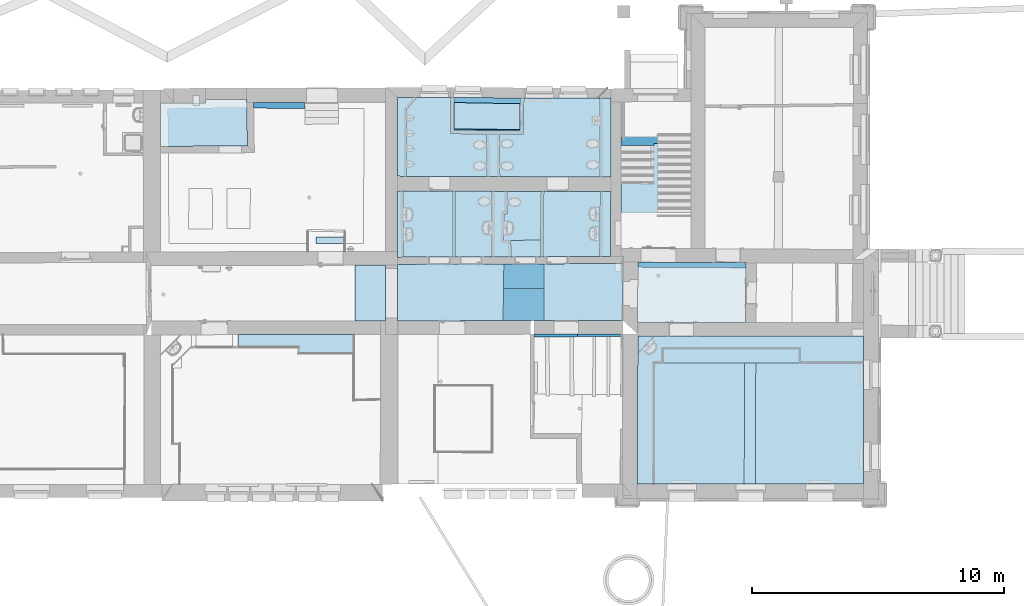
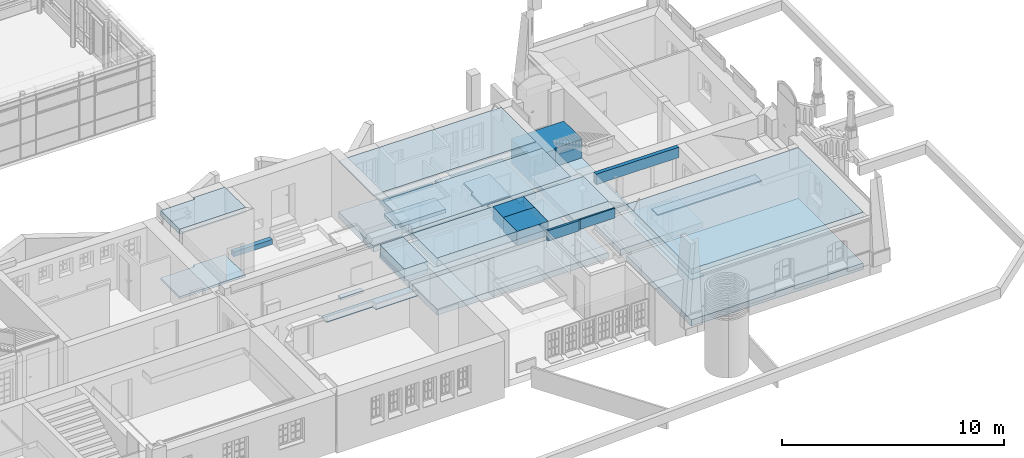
# One storey, part 13 of 196: 37 slabs.
"""IFC2X3 building model written with IfcOpenShell, lengths in metres."""

from ifc_helpers import new_model, entity, si_unit, converted_unit, derived_unit, money_unit, direction, frame, origin_with_axes, place, context, subcontext, project, spatial, polyline, outline, extrude, material, layer, layer_set, layer_usage, type_object, element, save


model = new_model("IFC2X3")

# Units and contexts
model_context = context("Model", 3, precision=1e-05, world=origin_with_axes(), true_north=direction((0.0, 1.0)))
body_context = subcontext(model_context, "Body", "Model", "MODEL_VIEW")
ifc_project = project(units=[si_unit("LENGTHUNIT", "METRE"), si_unit("AREAUNIT", "SQUARE_METRE"), si_unit("VOLUMEUNIT", "CUBIC_METRE"), converted_unit("PLANEANGLEUNIT", "DEGREE", entity("IfcPlaneAngleMeasure", 0.0174532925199), si_unit("PLANEANGLEUNIT", "RADIAN"), dimensions=[0, 0, 0, 0, 0, 0, 0]), money_unit("EUR"), converted_unit("TIMEUNIT", "Year", entity("IfcTimeMeasure", 31556926.0), si_unit("TIMEUNIT", "SECOND"), dimensions=[0, 0, 1, 0, 0, 0, 0]), si_unit("MASSUNIT", "GRAM", prefix="KILO"), si_unit("THERMODYNAMICTEMPERATUREUNIT", "DEGREE_CELSIUS"), si_unit("LUMINOUSINTENSITYUNIT", "LUMEN"), si_unit("ENERGYUNIT", "JOULE", prefix="MEGA"), derived_unit("THERMALCONDUCTANCEUNIT", [(si_unit("POWERUNIT", "WATT"), 1), (si_unit("LENGTHUNIT", "METRE"), -1), (si_unit("THERMODYNAMICTEMPERATUREUNIT", "KELVIN"), -1)]), derived_unit("SPECIFICHEATCAPACITYUNIT", [(si_unit("ENERGYUNIT", "JOULE"), 1), (si_unit("MASSUNIT", "GRAM", prefix="KILO"), -1), (si_unit("THERMODYNAMICTEMPERATUREUNIT", "KELVIN"), -1)]), derived_unit("MASSDENSITYUNIT", [(si_unit("MASSUNIT", "GRAM", prefix="KILO"), 1), (si_unit("VOLUMEUNIT", "CUBIC_METRE"), -1)])], contexts=[model_context])

# Site, building, storey
site_placement = place(None, origin_with_axes())
site = spatial("IfcSite", under=ifc_project, at=site_placement, Name="Gelände", CompositionType="ELEMENT")
building_placement = place(site_placement, origin_with_axes())
building = spatial("IfcBuilding", under=site, at=building_placement, Name="Gebäude", CompositionType="ELEMENT")
storey_placement = place(building_placement, frame((0.0, 0.0, -3.0), z_axis=(0.0, 0.0, 1.0), x_axis=(1.0, 0.0, 0.0)))
storey = spatial("IfcBuildingStorey", under=building, at=storey_placement, Name="KELLERGESCHOSS", CompositionType="ELEMENT", Elevation=-3.0)

# Slabs
ifc_material_1 = material(Name="01_ALLGEMEIN - BAUTEIL")
ifc_layer_1 = layer(ifc_material_1, 0.05, ventilated="UNKNOWN")
ifc_layer_set_1 = layer_set([ifc_layer_1], Name="01_ALLGEMEIN - BAUTEIL 0.05")
ifc_layer_usage_1 = layer_usage(ifc_layer_set_1, "AXIS3", "NEGATIVE", 0.05)
slab_type_1 = type_object("IfcSlabType", Name="01_ALLGEMEIN - BAUTEIL 50", PredefinedType="NOTDEFINED")
slab_1_placement = place(storey_placement, frame((15.2708428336, 25.6222415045, -0.14), z_axis=(0.0, 0.0, 1.0), x_axis=(1.0, 0.0, 0.0)))
element("IfcSlab", 1, at=slab_1_placement, inside=storey, type_object=slab_type_1, material=ifc_layer_usage_1, Name="Belag-005", PredefinedType="NOTDEFINED", context=body_context, shape_type="SweptSolid", body=[
    extrude(outline(polyline([(0.0, 0.0), (-0.00159687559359, -1.05285801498), (2.60614638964, -1.07878111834), (2.62291177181, -0.047416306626), (0.0, 0.0)])), frame((0.0, 0.0, -0.05), z_axis=(0.0, 0.0, 1.0), x_axis=(1.0, 0.0, 0.0)), (0.0, 0.0, 1.0), 0.05),
])
ifc_layer_usage_2 = layer_usage(ifc_layer_set_1, "AXIS3", "NEGATIVE", 0.05)
slab_2_placement = place(storey_placement, frame((6.68129350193, 16.4052183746, 2.10545783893), z_axis=(0.0, 0.0, 1.0), x_axis=(1.0, 0.0, 0.0)))
element("IfcSlab", 2, at=slab_2_placement, inside=storey, type_object=slab_type_1, material=ifc_layer_usage_2, Name="Belag-013", PredefinedType="NOTDEFINED", context=body_context, shape_type="SweptSolid", body=[
    extrude(outline(polyline([(0.0, 0.0), (-0.00127593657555, -0.511836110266), (2.39945247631, -0.508101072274), (2.39868127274, -0.762400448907), (4.59247818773, -0.756304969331), (4.59341028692, 0.00742721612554), (0.0, 0.0)])), origin_with_axes(), (0.0, 0.0, 1.0), 0.05),
])
ifc_layer_usage_3 = layer_usage(ifc_layer_set_1, "AXIS3", "NEGATIVE", 0.05)
slab_3_placement = place(storey_placement, frame((22.5605508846, 15.6626276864, 2.17), z_axis=(0.0, 0.0, 1.0), x_axis=(1.0, 0.0, 0.0)))
element("IfcSlab", 3, at=slab_3_placement, inside=storey, type_object=slab_type_1, material=ifc_layer_usage_3, Name="Belag-014", PredefinedType="NOTDEFINED", context=body_context, shape_type="SweptSolid", body=[
    extrude(outline(polyline([(0.0, 0.0), (-0.0219322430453, -5.19354771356), (0.651469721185, -5.19336654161), (0.663187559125, -0.387306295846), (1.0051730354, -0.387272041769), (1.00169651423, 0.183869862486), (6.42089456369, 0.182806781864), (6.41979334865, -0.386728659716), (8.95674513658, -0.386474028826), (8.95755987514, 0.68185910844), (0.674658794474, 0.691371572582), (0.0, 0.0)])), origin_with_axes(), (0.0, 0.0, 1.0), 0.05),
])
ifc_material_2 = material(Name="05_ALLGEMEIN - TRAGENDE BAUTEILE")
ifc_layer_2 = layer(ifc_material_2, 0.33, ventilated="UNKNOWN")
ifc_layer_set_2 = layer_set([ifc_layer_2], Name="05_ALLGEMEIN - TRAGENDE BAUTEILE 0.33")
ifc_layer_usage_4 = layer_usage(ifc_layer_set_2, "AXIS3", "NEGATIVE", 0.33)
slab_type_2 = type_object("IfcSlabType", Name="05_ALLGEMEIN - TRAGENDE BAUTEILE 330", PredefinedType="NOTDEFINED")
slab_4_placement = place(storey_placement, frame((21.8996310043, 23.9081781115, -0.03), z_axis=(0.0, 0.0, 1.0), x_axis=(1.0, 0.0, 0.0)))
element("IfcSlab", 4, at=slab_4_placement, inside=storey, type_object=slab_type_2, material=ifc_layer_usage_4, Name="Belag-005", PredefinedType="NOTDEFINED", context=body_context, shape_type="SweptSolid", body=[
    extrude(outline(polyline([(0.0, 0.0), (-0.00530884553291, -4.07007230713), (2.77224291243, -4.08495464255), (2.7728628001, 0.114467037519), (1.31011812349, 0.0911755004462), (1.30999898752, -0.000193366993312), (0.0, 0.0)])), frame((0.0, 0.0, -0.33), z_axis=(0.0, 0.0, 1.0), x_axis=(1.0, 0.0, 0.0)), (0.0, 0.0, 1.0), 0.33),
])
ifc_layer_3 = layer(ifc_material_2, 0.56, ventilated="UNKNOWN")
ifc_layer_set_3 = layer_set([ifc_layer_3], Name="05_ALLGEMEIN - TRAGENDE BAUTEILE 0.56")
ifc_layer_usage_5 = layer_usage(ifc_layer_set_3, "AXIS3", "NEGATIVE", 0.56)
slab_type_3 = type_object("IfcSlabType", Name="05_ALLGEMEIN - TRAGENDE BAUTEILE 560", PredefinedType="NOTDEFINED")
slab_5_placement = place(storey_placement, frame((18.439777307, 16.4242312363, 2.23), z_axis=(0.0, 0.0, 1.0), x_axis=(1.0, 0.0, 0.0)))
element("IfcSlab", 5, at=slab_5_placement, inside=storey, type_object=slab_type_3, material=ifc_layer_usage_5, Name="Belag-023", PredefinedType="NOTDEFINED", context=body_context, shape_type="SweptSolid", body=[
    extrude(outline(polyline([(0.0, 0.0), (-0.000240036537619, -0.114313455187), (1.62480078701, -0.119287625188), (1.62713216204, -0.0842869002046), (1.72065512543, -0.0842869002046), (1.71843840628, 0.00277864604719), (0.0, 0.0)])), origin_with_axes(), (0.0, 0.0, 1.0), 0.56),
])
ifc_layer_4 = layer(ifc_material_2, 0.35, ventilated="UNKNOWN")
ifc_layer_set_4 = layer_set([ifc_layer_4], Name="05_ALLGEMEIN - TRAGENDE BAUTEILE 0.35")
ifc_layer_usage_6 = layer_usage(ifc_layer_set_4, "AXIS3", "NEGATIVE", 0.35)
slab_type_4 = type_object("IfcSlabType", Name="05_ALLGEMEIN - TRAGENDE BAUTEILE 350", PredefinedType="NOTDEFINED")
slab_6_placement = place(storey_placement, frame((22.5634738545, 16.3547707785, -0.01), z_axis=(0.0, 0.0, 1.0), x_axis=(1.0, 0.0, 0.0)))
element("IfcSlab", 6, at=slab_6_placement, inside=storey, type_object=slab_type_4, material=ifc_layer_usage_6, Name="Belag-004", PredefinedType="NOTDEFINED", context=body_context, shape_type="SweptSolid", body=[
    extrude(outline(polyline([(0.0, 0.0), (-0.0248552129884, -5.8856908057), (8.95015791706, -5.88327562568), (8.9546369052, -0.0102839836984), (0.0, 0.0)])), frame((0.0, 0.0, -0.35), z_axis=(0.0, 0.0, 1.0), x_axis=(1.0, 0.0, 0.0)), (0.0, 0.0, 1.0), 0.35),
])
ifc_layer_5 = layer(ifc_material_2, 0.07, ventilated="UNKNOWN")
ifc_layer_set_5 = layer_set([ifc_layer_5], Name="05_ALLGEMEIN - TRAGENDE BAUTEILE 0.07")
ifc_layer_usage_7 = layer_usage(ifc_layer_set_5, "AXIS3", "NEGATIVE", 0.07)
slab_type_5 = type_object("IfcSlabType", Name="05_ALLGEMEIN - TRAGENDE BAUTEILE 70", PredefinedType="NOTDEFINED")
slab_7_placement = place(storey_placement, frame((13.0249391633, 22.6965808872, 2.72), z_axis=(0.0, 0.0, 1.0), x_axis=(1.0, 0.0, 0.0)))
element("IfcSlab", 7, at=slab_7_placement, inside=storey, type_object=slab_type_5, material=ifc_layer_usage_7, Name="Belag-009", PredefinedType="NOTDEFINED", context=body_context, shape_type="SweptSolid", body=[
    extrude(outline(polyline([(0.0, 0.0), (8.46306341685, -0.0355845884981), (8.46714899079, 3.09776186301), (0.420612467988, 3.12937426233), (-0.00265341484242, 3.13103714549), (-0.0024910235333, 2.93941493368), (0.0, 0.0)])), origin_with_axes(), (0.0, 0.0, 1.0), 0.07),
])
ifc_layer_6 = layer(ifc_material_2, 0.2, ventilated="UNKNOWN")
ifc_layer_set_6 = layer_set([ifc_layer_6], Name="05_ALLGEMEIN - TRAGENDE BAUTEILE 0.2")
ifc_layer_usage_8 = layer_usage(ifc_layer_set_6, "AXIS3", "NEGATIVE", 0.2)
slab_type_6 = type_object("IfcSlabType", Name="05_ALLGEMEIN - TRAGENDE BAUTEILE 200", PredefinedType="NOTDEFINED")
slab_8_placement = place(storey_placement, frame((15.2708428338, 25.6222415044, -0.8), z_axis=(0.0, 0.0, 1.0), x_axis=(1.0, 0.0, 0.0)))
element("IfcSlab", 8, at=slab_8_placement, inside=storey, type_object=slab_type_6, material=ifc_layer_usage_8, Name="Belag-005", PredefinedType="NOTDEFINED", context=body_context, shape_type="SweptSolid", body=[
    extrude(outline(polyline([(0.0, 0.0), (-0.00159687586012, -1.05285801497), (2.60614638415, -1.07878111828), (2.62291177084, -0.0474163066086), (0.0, 0.0)])), frame((0.0, 0.0, -0.2), z_axis=(0.0, 0.0, 1.0), x_axis=(1.0, 0.0, 0.0)), (0.0, 0.0, 1.0), 0.2),
])
ifc_layer_7 = layer(ifc_material_2, 0.27, ventilated="UNKNOWN")
ifc_layer_set_7 = layer_set([ifc_layer_7], Name="05_ALLGEMEIN - TRAGENDE BAUTEILE 0.27")
ifc_layer_usage_9 = layer_usage(ifc_layer_set_7, "AXIS3", "NEGATIVE", 0.27)
slab_type_7 = type_object("IfcSlabType", Name="05_ALLGEMEIN - TRAGENDE BAUTEILE 270", PredefinedType="NOTDEFINED")
slab_9_placement = place(storey_placement, frame((9.33833063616, 25.6274131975, 0.01), z_axis=(0.0, 0.0, 1.0), x_axis=(1.0, 0.0, 0.0)))
element("IfcSlab", 9, at=slab_9_placement, inside=storey, type_object=slab_type_7, material=ifc_layer_usage_9, Name="Belag-005", PredefinedType="NOTDEFINED", context=body_context, shape_type="SweptSolid", body=[
    extrude(outline(polyline([(0.0, 0.0), (-2.02849934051, -0.00338167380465), (-2.02528887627, -0.229797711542), (0.0002958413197, -0.237226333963), (0.0, 0.0)])), frame((0.0, 0.0, -0.27), z_axis=(0.0, 0.0, 1.0), x_axis=(1.0, 0.0, 0.0)), (0.0, 0.0, 1.0), 0.27),
])
ifc_layer_8 = layer(ifc_material_2, 0.86, ventilated="UNKNOWN")
ifc_layer_set_8 = layer_set([ifc_layer_8], Name="05_ALLGEMEIN - TRAGENDE BAUTEILE 0.86")
ifc_layer_usage_10 = layer_usage(ifc_layer_set_8, "AXIS3", "NEGATIVE", 0.86)
slab_type_8 = type_object("IfcSlabType", Name="05_ALLGEMEIN - TRAGENDE BAUTEILE 860", PredefinedType="NOTDEFINED")
slab_10_placement = place(storey_placement, frame((15.269245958, 24.5693834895, -0.14), z_axis=(0.0, 0.0, 1.0), x_axis=(1.0, 0.0, 0.0)))
element("IfcSlab", 10, at=slab_10_placement, inside=storey, type_object=slab_type_8, material=ifc_layer_usage_10, Name="Belag-005", PredefinedType="NOTDEFINED", context=body_context, shape_type="SweptSolid", body=[
    extrude(outline(polyline([(0.0, 0.0), (-7.40580913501e-05, -0.0488282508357), (2.60696203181, -0.073982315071), (2.60774326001, -0.0259231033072), (0.0, 0.0)])), frame((0.0, 0.0, -0.86), z_axis=(0.0, 0.0, 1.0), x_axis=(1.0, 0.0, 0.0)), (0.0, 0.0, 1.0), 0.86),
])
ifc_layer_usage_11 = layer_usage(ifc_layer_set_8, "AXIS3", "NEGATIVE", 0.86)
slab_11_placement = place(storey_placement, frame((15.2711409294, 25.818782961, -0.14), z_axis=(0.0, 0.0, 1.0), x_axis=(1.0, 0.0, 0.0)))
element("IfcSlab", 11, at=slab_11_placement, inside=storey, type_object=slab_type_8, material=ifc_layer_usage_11, Name="Belag-005", PredefinedType="NOTDEFINED", context=body_context, shape_type="SweptSolid", body=[
    extrude(outline(polyline([(0.0, 0.0), (-0.000298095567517, -0.196541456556), (2.62261367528, -0.243957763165), (2.62641160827, -0.0103183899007), (0.0, 0.0)])), frame((0.0, 0.0, -0.86), z_axis=(0.0, 0.0, 1.0), x_axis=(1.0, 0.0, 0.0)), (0.0, 0.0, 1.0), 0.86),
])
ifc_layer_9 = layer(ifc_material_2, 0.7, ventilated="UNKNOWN")
ifc_layer_set_9 = layer_set([ifc_layer_9], Name="05_ALLGEMEIN - TRAGENDE BAUTEILE 0.7")
ifc_layer_usage_12 = layer_usage(ifc_layer_set_9, "AXIS3", "NEGATIVE", 0.7)
slab_type_9 = type_object("IfcSlabType", Name="05_ALLGEMEIN - TRAGENDE BAUTEILE 700", PredefinedType="NOTDEFINED")
slab_12_placement = place(storey_placement, frame((17.2423939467, 19.2142646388, 2.09), z_axis=(0.0, 0.0, 1.0), x_axis=(1.0, 0.0, 0.0)))
element("IfcSlab", 12, at=slab_12_placement, inside=storey, type_object=slab_type_9, material=ifc_layer_usage_12, Name="Belag-025", PredefinedType="NOTDEFINED", context=body_context, shape_type="SweptSolid", body=[
    extrude(outline(polyline([(0.0, 0.0), (-0.0138465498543, -0.975148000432), (1.59727818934, -0.980277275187), (1.60194181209, 0.0054337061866), (0.0, 0.0)])), origin_with_axes(), (0.0, 0.0, 1.0), 0.7),
])
ifc_layer_10 = layer(ifc_material_2, 0.57, ventilated="UNKNOWN")
ifc_layer_set_10 = layer_set([ifc_layer_10], Name="05_ALLGEMEIN - TRAGENDE BAUTEILE 0.57")
ifc_layer_usage_13 = layer_usage(ifc_layer_set_10, "AXIS3", "NEGATIVE", 0.57)
slab_type_10 = type_object("IfcSlabType", Name="05_ALLGEMEIN - TRAGENDE BAUTEILE 570", PredefinedType="NOTDEFINED")
slab_13_placement = place(storey_placement, frame((22.5609478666, 19.0844111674, 2.22), z_axis=(0.0, 0.0, 1.0), x_axis=(1.0, 0.0, 0.0)))
element("IfcSlab", 13, at=slab_13_placement, inside=storey, type_object=slab_type_10, material=ifc_layer_usage_13, Name="Belag-011", PredefinedType="NOTDEFINED", context=body_context, shape_type="SweptSolid", body=[
    extrude(outline(polyline([(0.0, 0.0), (4.28864469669, -0.0244820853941), (4.28996801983, 0.177722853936), (0.000593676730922, 0.200705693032), (0.0, 0.0)])), origin_with_axes(), (0.0, 0.0, 1.0), 0.57),
])
ifc_layer_11 = layer(ifc_material_2, 0.34, ventilated="UNKNOWN")
ifc_layer_set_11 = layer_set([ifc_layer_11], Name="05_ALLGEMEIN - TRAGENDE BAUTEILE 0.34")
ifc_layer_usage_14 = layer_usage(ifc_layer_set_11, "AXIS3", "NEGATIVE", 0.34)
slab_type_11 = type_object("IfcSlabType", Name="05_ALLGEMEIN - TRAGENDE BAUTEILE 340", PredefinedType="NOTDEFINED")
slab_14_placement = place(storey_placement, frame((13.0224481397, 25.635995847, -0.02), z_axis=(0.0, 0.0, 1.0), x_axis=(1.0, 0.0, 0.0)))
element("IfcSlab", 14, at=slab_14_placement, inside=storey, type_object=slab_type_11, material=ifc_layer_usage_14, Name="Belag-005", PredefinedType="NOTDEFINED", context=body_context, shape_type="SweptSolid", body=[
    extrude(outline(polyline([(0.0, 0.0), (0.00249108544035, -2.93941493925), (8.465554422, -2.97499954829), (8.46964001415, 0.158346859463), (5.01340801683, 0.171925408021), (4.98986512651, -1.27637359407), (2.10122653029, -1.2485024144), (2.10339831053, 0.183357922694), (0.423103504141, 0.189959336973), (-0.000162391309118, 0.191622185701), (0.0, 0.0)])), frame((0.0, 0.0, -0.34), z_axis=(0.0, 0.0, 1.0), x_axis=(1.0, 0.0, 0.0)), (0.0, 0.0, 1.0), 0.34),
])
ifc_layer_usage_15 = layer_usage(ifc_layer_set_11, "AXIS3", "NEGATIVE", 0.34)
slab_15_placement = place(storey_placement, frame((13.0254306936, 22.1165736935, -0.02), z_axis=(0.0, 0.0, 1.0), x_axis=(1.0, 0.0, 0.0)))
element("IfcSlab", 15, at=slab_15_placement, inside=storey, type_object=slab_type_11, material=ifc_layer_usage_15, Name="Belag-005", PredefinedType="NOTDEFINED", context=body_context, shape_type="SweptSolid", body=[
    extrude(outline(polyline([(0.0, 0.0), (0.00223440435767, -2.63660356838), (8.458461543, -2.60792050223), (8.46181562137, -0.0355793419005), (0.0, 0.0)])), frame((0.0, 0.0, -0.34), z_axis=(0.0, 0.0, 1.0), x_axis=(1.0, 0.0, 0.0)), (0.0, 0.0, 1.0), 0.34),
])
ifc_layer_12 = layer(ifc_material_2, 0.16, ventilated="UNKNOWN")
ifc_layer_set_12 = layer_set([ifc_layer_12], Name="05_ALLGEMEIN - TRAGENDE BAUTEILE 0.16")
ifc_layer_usage_16 = layer_usage(ifc_layer_set_12, "AXIS3", "NEGATIVE", 0.16)
slab_type_12 = type_object("IfcSlabType", Name="05_ALLGEMEIN - TRAGENDE BAUTEILE 160", PredefinedType="NOTDEFINED")
slab_16_placement = place(storey_placement, frame((13.0254306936, 22.1165736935, 2.63), z_axis=(0.0, 0.0, 1.0), x_axis=(1.0, 0.0, 0.0)))
element("IfcSlab", 16, at=slab_16_placement, inside=storey, type_object=slab_type_12, material=ifc_layer_usage_16, Name="Belag-009", PredefinedType="NOTDEFINED", context=body_context, shape_type="SweptSolid", body=[
    extrude(outline(polyline([(0.0, 0.0), (0.00223440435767, -2.63660356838), (8.458461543, -2.60792050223), (8.46181562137, -0.0355793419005), (0.0, 0.0)])), origin_with_axes(), (0.0, 0.0, 1.0), 0.16),
])
ifc_layer_13 = layer(ifc_material_2, 0.48, ventilated="UNKNOWN")
ifc_layer_set_13 = layer_set([ifc_layer_13], Name="05_ALLGEMEIN - TRAGENDE BAUTEILE 0.48")
ifc_layer_usage_17 = layer_usage(ifc_layer_set_13, "AXIS3", "NEGATIVE", 0.48)
slab_type_13 = type_object("IfcSlabType", Name="05_ALLGEMEIN - TRAGENDE BAUTEILE 480", PredefinedType="NOTDEFINED")
slab_17_placement = place(storey_placement, frame((13.0279023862, 19.1999693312, 2.31), z_axis=(0.0, 0.0, 1.0), x_axis=(1.0, 0.0, 0.0)))
element("IfcSlab", 17, at=slab_17_placement, inside=storey, type_object=slab_type_13, material=ifc_layer_usage_17, Name="Belag-018", PredefinedType="NOTDEFINED", context=body_context, shape_type="SweptSolid", body=[
    extrude(outline(polyline([(0.0, 0.0), (0.00190211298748, -2.24448509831), (4.18251415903, -2.23772521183), (4.2144915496, 0.0142953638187), (0.0, 0.0)])), origin_with_axes(), (0.0, 0.0, 1.0), 0.48),
])
ifc_layer_usage_18 = layer_usage(ifc_layer_set_13, "AXIS3", "NEGATIVE", 0.48)
slab_18_placement = place(storey_placement, frame((18.8443357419, 19.2196983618, 2.31), z_axis=(0.0, 0.0, 1.0), x_axis=(1.0, 0.0, 0.0)))
element("IfcSlab", 18, at=slab_18_placement, inside=storey, type_object=slab_type_13, material=ifc_layer_usage_18, Name="Belag-019", PredefinedType="NOTDEFINED", context=body_context, shape_type="SweptSolid", body=[
    extrude(outline(polyline([(0.0, 0.0), (-0.0106680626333, -2.2548295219), (3.12448212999, -2.249760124), (3.13116854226, 0.0106207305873), (0.0, 0.0)])), origin_with_axes(), (0.0, 0.0, 1.0), 0.48),
])
ifc_layer_14 = layer(ifc_material_2, 0.28, ventilated="UNKNOWN")
ifc_layer_set_14 = layer_set([ifc_layer_14], Name="05_ALLGEMEIN - TRAGENDE BAUTEILE 0.28")
ifc_layer_usage_19 = layer_usage(ifc_layer_set_14, "AXIS3", "NEGATIVE", 0.28)
slab_type_14 = type_object("IfcSlabType", Name="05_ALLGEMEIN - TRAGENDE BAUTEILE 280", PredefinedType="NOTDEFINED")
slab_19_placement = place(storey_placement, frame((22.5634738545, 16.3547707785, 2.51), z_axis=(0.0, 0.0, 1.0), x_axis=(1.0, 0.0, 0.0)))
element("IfcSlab", 19, at=slab_19_placement, inside=storey, type_object=slab_type_14, material=ifc_layer_usage_19, Name="Belag-009", PredefinedType="NOTDEFINED", context=body_context, shape_type="SweptSolid", body=[
    extrude(outline(polyline([(0.0, 0.0), (-0.0248552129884, -5.8856908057), (8.95015791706, -5.88327562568), (8.9546369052, -0.0102839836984), (0.0, 0.0)])), origin_with_axes(), (0.0, 0.0, 1.0), 0.28),
])
ifc_layer_15 = layer(ifc_material_2, 0.328813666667, ventilated="UNKNOWN")
ifc_layer_set_15 = layer_set([ifc_layer_15], Name="05_ALLGEMEIN - TRAGENDE BAUTEILE 0.328814")
ifc_layer_usage_20 = layer_usage(ifc_layer_set_15, "AXIS3", "NEGATIVE", 0.328813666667)
slab_type_15 = type_object("IfcSlabType", Name="05_ALLGEMEIN - TRAGENDE BAUTEILE 329", PredefinedType="NOTDEFINED")
slab_20_placement = place(storey_placement, frame((22.5544707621, 16.8947814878, -0.0311863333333), z_axis=(0.0, 0.0, 1.0), x_axis=(1.0, 0.0, 0.0)))
element("IfcSlab", 20, at=slab_20_placement, inside=storey, type_object=slab_type_15, material=ifc_layer_usage_20, Name="Belag-004", PredefinedType="NOTDEFINED", context=body_context, shape_type="SweptSolid", body=[
    extrude(outline(polyline([(0.0, 0.0), (4.28091989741, -0.00491644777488), (4.29644512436, 2.36735254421), (0.00707079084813, 2.39033538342), (0.0, 0.0)])), frame((0.0, 0.0, -0.328813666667), z_axis=(0.0, 0.0, 1.0), x_axis=(1.0, 0.0, 0.0)), (0.0, 0.0, 1.0), 0.328813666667),
])
ifc_layer_usage_21 = layer_usage(ifc_layer_set_15, "AXIS3", "NEGATIVE", 0.328813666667)
slab_21_placement = place(storey_placement, frame((21.9755042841, 19.2303191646, -0.0311863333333), z_axis=(0.0, 0.0, 1.0), x_axis=(1.0, 0.0, 0.0)))
element("IfcSlab", 21, at=slab_21_placement, inside=storey, type_object=slab_type_15, material=ifc_layer_usage_21, Name="Belag-004", PredefinedType="NOTDEFINED", context=body_context, shape_type="SweptSolid", body=[
    extrude(outline(polyline([(0.0, 0.0), (-8.94760189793, -0.0303498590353), (-8.94569981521, -2.27483493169), (-0.00668635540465, -2.26038091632), (0.0, 0.0)])), frame((0.0, 0.0, -0.328813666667), z_axis=(0.0, 0.0, 1.0), x_axis=(1.0, 0.0, 0.0)), (0.0, 0.0, 1.0), 0.328813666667),
])
ifc_layer_16 = layer(ifc_material_2, 0.12, ventilated="UNKNOWN")
ifc_layer_set_16 = layer_set([ifc_layer_16], Name="05_ALLGEMEIN - TRAGENDE BAUTEILE 0.12")
ifc_layer_usage_22 = layer_usage(ifc_layer_set_16, "AXIS3", "NEGATIVE", 0.12)
slab_type_16 = type_object("IfcSlabType", Name="05_ALLGEMEIN - TRAGENDE BAUTEILE 120", PredefinedType="NOTDEFINED")
slab_22_placement = place(storey_placement, frame((9.79438970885, 20.285356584, -0.14), z_axis=(0.0, 0.0, 1.0), x_axis=(1.0, 0.0, 0.0)))
element("IfcSlab", 22, at=slab_22_placement, inside=storey, type_object=slab_type_16, material=ifc_layer_usage_22, Name="Belag-005", PredefinedType="NOTDEFINED", context=body_context, shape_type="SweptSolid", body=[
    extrude(outline(polyline([(0.0, 0.0), (-0.00517404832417, -0.252110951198), (1.17223090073, -0.25271898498), (1.16874157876, 0.000458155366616), (0.0, 0.0)])), frame((0.0, 0.0, -0.12), z_axis=(0.0, 0.0, 1.0), x_axis=(1.0, 0.0, 0.0)), (0.0, 0.0, 1.0), 0.12),
])
ifc_layer_usage_23 = layer_usage(ifc_layer_set_16, "AXIS3", "NEGATIVE", 0.12)
slab_23_placement = place(storey_placement, frame((7.03810545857, 25.7435787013, -0.24), z_axis=(0.0, 0.0, 1.0), x_axis=(1.0, 0.0, 0.0)))
element("IfcSlab", 23, at=slab_23_placement, inside=storey, type_object=slab_type_16, material=ifc_layer_usage_23, Name="Belag-005", PredefinedType="NOTDEFINED", context=body_context, shape_type="SweptSolid", body=[
    extrude(outline(polyline([(0.0, 0.0), (-1.64553290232, -0.00274323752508), (-1.64530784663, -0.137743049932), (-3.42357018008, -0.140707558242), (-3.42178575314, -1.86385204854), (0.0262000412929, -1.84397125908), (0.0, 0.0)])), frame((0.0, 0.0, -0.12), z_axis=(0.0, 0.0, 1.0), x_axis=(1.0, 0.0, 0.0)), (0.0, 0.0, 1.0), 0.12),
])
ifc_layer_17 = layer(ifc_material_2, 1.36, ventilated="UNKNOWN")
ifc_layer_set_17 = layer_set([ifc_layer_17], Name="05_ALLGEMEIN - TRAGENDE BAUTEILE 1.36")
ifc_layer_usage_24 = layer_usage(ifc_layer_set_17, "AXIS3", "NEGATIVE", 1.36)
slab_type_17 = type_object("IfcSlabType", Name="05_ALLGEMEIN - TRAGENDE BAUTEILE 1360", PredefinedType="NOTDEFINED")
slab_24_placement = place(storey_placement, frame((21.9019023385, 25.6515618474, 1.0), z_axis=(0.0, 0.0, 1.0), x_axis=(1.0, 0.0, 0.0)))
element("IfcSlab", 24, at=slab_24_placement, inside=storey, type_object=slab_type_17, material=ifc_layer_usage_24, Name="Belag-005", PredefinedType="NOTDEFINED", context=body_context, shape_type="SweptSolid", body=[
    extrude(outline(polyline([(0.0, 0.0), (-0.00227133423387, -1.74338373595), (1.30772765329, -1.74357710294), (1.30784678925, -1.6522082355), (2.77059146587, -1.62891669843), (2.77083412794, 0.0150573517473), (0.0, 0.0)])), frame((0.0, 0.0, -1.36), z_axis=(0.0, 0.0, 1.0), x_axis=(1.0, 0.0, 0.0)), (0.0, 0.0, 1.0), 1.36),
])
ifc_layer_18 = layer(ifc_material_2, 0.66, ventilated="UNKNOWN")
ifc_layer_set_18 = layer_set([ifc_layer_18], Name="05_ALLGEMEIN - TRAGENDE BAUTEILE 0.66")
ifc_layer_usage_25 = layer_usage(ifc_layer_set_18, "AXIS3", "NEGATIVE", 0.66)
slab_type_18 = type_object("IfcSlabType", Name="05_ALLGEMEIN - TRAGENDE BAUTEILE 660", PredefinedType="NOTDEFINED")
slab_25_placement = place(storey_placement, frame((11.3262706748, 19.1640659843, 2.13), z_axis=(0.0, 0.0, 1.0), x_axis=(1.0, 0.0, 0.0)))
element("IfcSlab", 25, at=slab_25_placement, inside=storey, type_object=slab_type_18, material=ifc_layer_usage_25, Name="Belag-017", PredefinedType="NOTDEFINED", context=body_context, shape_type="SweptSolid", body=[
    extrude(outline(polyline([(0.0, 0.0), (0.00696837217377, -2.21132502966), (1.22353428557, -2.20935789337), (1.22166129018, 0.000749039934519), (0.0, 0.0)])), origin_with_axes(), (0.0, 0.0, 1.0), 0.66),
])
ifc_layer_19 = layer(ifc_material_2, 0.285, ventilated="UNKNOWN")
ifc_layer_set_19 = layer_set([ifc_layer_19], Name="05_ALLGEMEIN - TRAGENDE BAUTEILE 0.285")
ifc_layer_usage_26 = layer_usage(ifc_layer_set_19, "AXIS3", "NEGATIVE", 0.285)
slab_type_19 = type_object("IfcSlabType", Name="05_ALLGEMEIN - TRAGENDE BAUTEILE 285", PredefinedType="NOTDEFINED")
slab_26_placement = place(storey_placement, frame((3.61453527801, 25.6028711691, 3.19), z_axis=(0.0, 0.0, 1.0), x_axis=(1.0, 0.0, 0.0)))
element("IfcSlab", 26, at=slab_26_placement, inside=storey, type_object=slab_type_19, material=ifc_layer_usage_26, Name="Belag-008", PredefinedType="NOTDEFINED", context=body_context, shape_type="SweptSolid", body=[
    extrude(outline(polyline([(0.0, 0.0), (0.00050720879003, -1.72315188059), (3.44977022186, -1.70326369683), (3.42527518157, 0.0207101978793), (3.423570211, 0.140707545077), (1.77803724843, 0.137964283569), (1.77826230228, 0.00296451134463), (0.0, 0.0)])), origin_with_axes(), (0.0, 0.0, 1.0), 0.285),
])
ifc_layer_20 = layer(ifc_material_1, 0.12, ventilated="UNKNOWN")
ifc_layer_set_20 = layer_set([ifc_layer_20], Name="01_ALLGEMEIN - BAUTEIL 0.12")
ifc_layer_usage_27 = layer_usage(ifc_layer_set_20, "AXIS3", "NEGATIVE", 0.12)
slab_type_20 = type_object("IfcSlabType", Name="01_ALLGEMEIN - BAUTEIL 120", PredefinedType="NOTDEFINED")
slab_27_placement = place(storey_placement, frame((17.2490522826, 21.203792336, 2.2), z_axis=(0.0, 0.0, 1.0), x_axis=(1.0, 0.0, 0.0)))
element("IfcSlab", 27, at=slab_27_placement, inside=storey, type_object=slab_type_20, material=ifc_layer_usage_27, Name="Belag-015", PredefinedType="NOTDEFINED", context=body_context, shape_type="SweptSolid", body=[
    extrude(outline(polyline([(0.0, 0.0), (-0.0190654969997, -1.0545636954), (0.266511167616, -1.04935603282), (0.26653620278, -1.05340917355), (1.45067133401, -1.04164238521), (1.47936160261, 0.888802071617), (0.127840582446, 0.894484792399), (0.117293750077, 0.000341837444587), (0.0, 0.0)])), origin_with_axes(), (0.0, 0.0, 1.0), 0.12),
])
ifc_layer_usage_28 = layer_usage(ifc_layer_set_20, "AXIS3", "NEGATIVE", 0.12)
slab_28_placement = place(storey_placement, frame((18.8284186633, 22.0921739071, 2.21), z_axis=(0.0, 0.0, 1.0), x_axis=(1.0, 0.0, 0.0)))
element("IfcSlab", 28, at=slab_28_placement, inside=storey, type_object=slab_type_20, material=ifc_layer_usage_28, Name="Belag-015", PredefinedType="NOTDEFINED", context=body_context, shape_type="SweptSolid", body=[
    extrude(outline(polyline([(0.0, 0.0), (-0.0385320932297, -2.59265863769), (2.21859574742, -2.58500256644), (2.24792217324, -0.00945184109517), (0.0, 0.0)])), origin_with_axes(), (0.0, 0.0, 1.0), 0.12),
])
ifc_layer_usage_29 = layer_usage(ifc_layer_set_20, "AXIS3", "NEGATIVE", 0.12)
slab_29_placement = place(storey_placement, frame((15.2160622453, 22.107362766, 2.2), z_axis=(0.0, 0.0, 1.0), x_axis=(1.0, 0.0, 0.0)))
element("IfcSlab", 29, at=slab_29_placement, inside=storey, type_object=slab_type_20, material=ifc_layer_usage_29, Name="Belag-015", PredefinedType="NOTDEFINED", context=body_context, shape_type="SweptSolid", body=[
    extrude(outline(polyline([(0.0, 0.0), (-1.97634985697, 0.00830993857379), (-1.95730051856, -2.62660877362), (0.00853884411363, -2.61994075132), (0.0, 0.0)])), origin_with_axes(), (0.0, 0.0, 1.0), 0.12),
])
ifc_layer_usage_30 = layer_usage(ifc_layer_set_20, "AXIS3", "NEGATIVE", 0.12)
slab_30_placement = place(storey_placement, frame((16.7685349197, 22.1008350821, 2.21), z_axis=(0.0, 0.0, 1.0), x_axis=(1.0, 0.0, 0.0)))
element("IfcSlab", 30, at=slab_30_placement, inside=storey, type_object=slab_type_20, material=ifc_layer_usage_30, Name="Belag-015", PredefinedType="NOTDEFINED", context=body_context, shape_type="SweptSolid", body=[
    extrude(outline(polyline([(0.0, 0.0), (-1.45247076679, 0.00610719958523), (-1.44393440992, -2.61307387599), (0.0073953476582, -2.6081510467), (0.0, 0.0)])), origin_with_axes(), (0.0, 0.0, 1.0), 0.12),
])
ifc_layer_usage_31 = layer_usage(ifc_layer_set_20, "AXIS3", "NEGATIVE", 0.12)
slab_31_placement = place(storey_placement, frame((18.6997236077, 20.1621499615, 2.11), z_axis=(0.0, 0.0, 1.0), x_axis=(1.0, 0.0, 0.0)))
element("IfcSlab", 31, at=slab_31_placement, inside=storey, type_object=slab_type_20, material=ifc_layer_usage_31, Name="Belag-015", PredefinedType="NOTDEFINED", context=body_context, shape_type="SweptSolid", body=[
    extrude(outline(polyline([(0.0, 0.0), (-1.18413511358, -0.0117667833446), (-1.18008551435, -0.666943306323), (-0.00985312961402, -0.662973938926), (0.0, 0.0)])), origin_with_axes(), (0.0, 0.0, 1.0), 0.12),
])
ifc_layer_usage_32 = layer_usage(ifc_layer_set_20, "AXIS3", "NEGATIVE", 0.12)
slab_32_placement = place(storey_placement, frame((13.3737639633, 25.3484899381, 2.31), z_axis=(0.0, 0.0, 1.0), x_axis=(1.0, 0.0, 0.0)))
element("IfcSlab", 32, at=slab_32_placement, inside=storey, type_object=slab_type_20, material=ifc_layer_usage_32, Name="Belag-015", PredefinedType="NOTDEFINED", context=body_context, shape_type="SweptSolid", body=[
    extrude(outline(polyline([(0.0, 0.0), (-0.00317115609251, -2.65336241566), (3.20904420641, -2.66686879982), (3.18477170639, -0.974840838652), (1.74991076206, -0.960996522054), (1.75208248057, 0.470863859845), (0.411175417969, 0.476131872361), (0.0, 0.0)])), origin_with_axes(), (0.0, 0.0, 1.0), 0.12),
])
ifc_layer_usage_33 = layer_usage(ifc_layer_set_20, "AXIS3", "NEGATIVE", 0.12)
slab_33_placement = place(storey_placement, frame((18.0123133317, 24.3596222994, 2.31), z_axis=(0.0, 0.0, 1.0), x_axis=(1.0, 0.0, 0.0)))
element("IfcSlab", 33, at=slab_33_placement, inside=storey, type_object=slab_type_20, material=ifc_layer_usage_33, Name="Belag-016", PredefinedType="NOTDEFINED", context=body_context, shape_type="SweptSolid", body=[
    extrude(outline(polyline([(0.0, 0.0), (-0.933780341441, 0.00900959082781), (-0.93221141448, -1.68009210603), (3.04563385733, -1.69681774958), (3.05005581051, 1.43137945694), (2.94439434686, 1.43080528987), (2.94439434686, 1.43682377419), (0.0235428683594, 1.44829892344), (0.0, 0.0)])), origin_with_axes(), (0.0, 0.0, 1.0), 0.12),
])
ifc_layer_21 = layer(ifc_material_1, 0.07, ventilated="UNKNOWN")
ifc_layer_set_21 = layer_set([ifc_layer_21], Name="01_ALLGEMEIN - BAUTEIL 0.07")
ifc_layer_usage_34 = layer_usage(ifc_layer_set_21, "AXIS3", "NEGATIVE", 0.07)
slab_type_21 = type_object("IfcSlabType", Name="01_ALLGEMEIN - BAUTEIL 70", PredefinedType="NOTDEFINED")
slab_34_placement = place(storey_placement, frame((28.9814454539, 15.8454344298, 2.44), z_axis=(0.0, 0.0, 1.0), x_axis=(1.0, 0.0, 0.0)))
element("IfcSlab", 34, at=slab_34_placement, inside=storey, type_object=slab_type_21, material=ifc_layer_usage_34, Name="Belag-015", PredefinedType="NOTDEFINED", context=body_context, shape_type="SweptSolid", body=[
    extrude(outline(polyline([(0.0, 0.0), (-5.419198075, 0.00106310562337), (-5.41572160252, -0.570078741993), (-0.00110122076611, -0.569535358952), (0.0, 0.0)])), origin_with_axes(), (0.0, 0.0, 1.0), 0.07),
])
ifc_layer_usage_35 = layer_usage(ifc_layer_set_21, "AXIS3", "NEGATIVE", 0.07)
slab_35_placement = place(storey_placement, frame((26.8014526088, 15.2756803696, 2.44), z_axis=(0.0, 0.0, 1.0), x_axis=(1.0, 0.0, 0.0)))
element("IfcSlab", 35, at=slab_35_placement, inside=storey, type_object=slab_type_21, material=ifc_layer_usage_35, Name="Belag-016", PredefinedType="NOTDEFINED", context=body_context, shape_type="SweptSolid", body=[
    extrude(outline(polyline([(0.0, 0.0), (-0.0187092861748, -4.80545833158), (0.43096206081, -4.80533731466), (0.442877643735, 4.44683445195e-05), (0.0, 0.0)])), origin_with_axes(), (0.0, 0.0, 1.0), 0.07),
])
ifc_layer_22 = layer(ifc_material_2, 0.53, ventilated="UNKNOWN")
ifc_layer_set_22 = layer_set([ifc_layer_22], Name="05_ALLGEMEIN - TRAGENDE BAUTEILE 0.53")
ifc_layer_usage_36 = layer_usage(ifc_layer_set_22, "AXIS3", "NEGATIVE", 0.53)
slab_type_22 = type_object("IfcSlabType", Name="05_ALLGEMEIN - TRAGENDE BAUTEILE 530", PredefinedType="NOTDEFINED")
slab_36_placement = place(storey_placement, frame((20.1582157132, 16.4270098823, 2.26), z_axis=(0.0, 0.0, 1.0), x_axis=(1.0, 0.0, 0.0)))
element("IfcSlab", 36, at=slab_36_placement, inside=storey, type_object=slab_type_22, material=ifc_layer_usage_36, Name="Belag-023", PredefinedType="NOTDEFINED", context=body_context, shape_type="SweptSolid", body=[
    extrude(outline(polyline([(0.0, 0.0), (0.00221671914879, -0.0870655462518), (1.80525565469, -0.0870655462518), (1.80557017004, 0.0029194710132), (0.0, 0.0)])), origin_with_axes(), (0.0, 0.0, 1.0), 0.53),
])
ifc_layer_23 = layer(ifc_material_2, 0.78, ventilated="UNKNOWN")
ifc_layer_set_23 = layer_set([ifc_layer_23], Name="05_ALLGEMEIN - TRAGENDE BAUTEILE 0.78")
ifc_layer_usage_37 = layer_usage(ifc_layer_set_23, "AXIS3", "NEGATIVE", 0.78)
slab_type_23 = type_object("IfcSlabType", Name="05_ALLGEMEIN - TRAGENDE BAUTEILE 780", PredefinedType="NOTDEFINED")
slab_37_placement = place(storey_placement, frame((17.2285473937, 18.2391166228, 2.01), z_axis=(0.0, 0.0, 1.0), x_axis=(1.0, 0.0, 0.0)))
element("IfcSlab", 37, at=slab_37_placement, inside=storey, type_object=slab_type_23, material=ifc_layer_usage_37, Name="Belag-024", PredefinedType="NOTDEFINED", context=body_context, shape_type="SweptSolid", body=[
    extrude(outline(polyline([(0.0, 0.0), (-0.0181308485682, -1.27687251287), (1.605120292, -1.27424778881), (1.61112475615, -0.00512924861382), (0.0, 0.0)])), origin_with_axes(), (0.0, 0.0, 1.0), 0.78),
])

save(model, "model.ifc")
